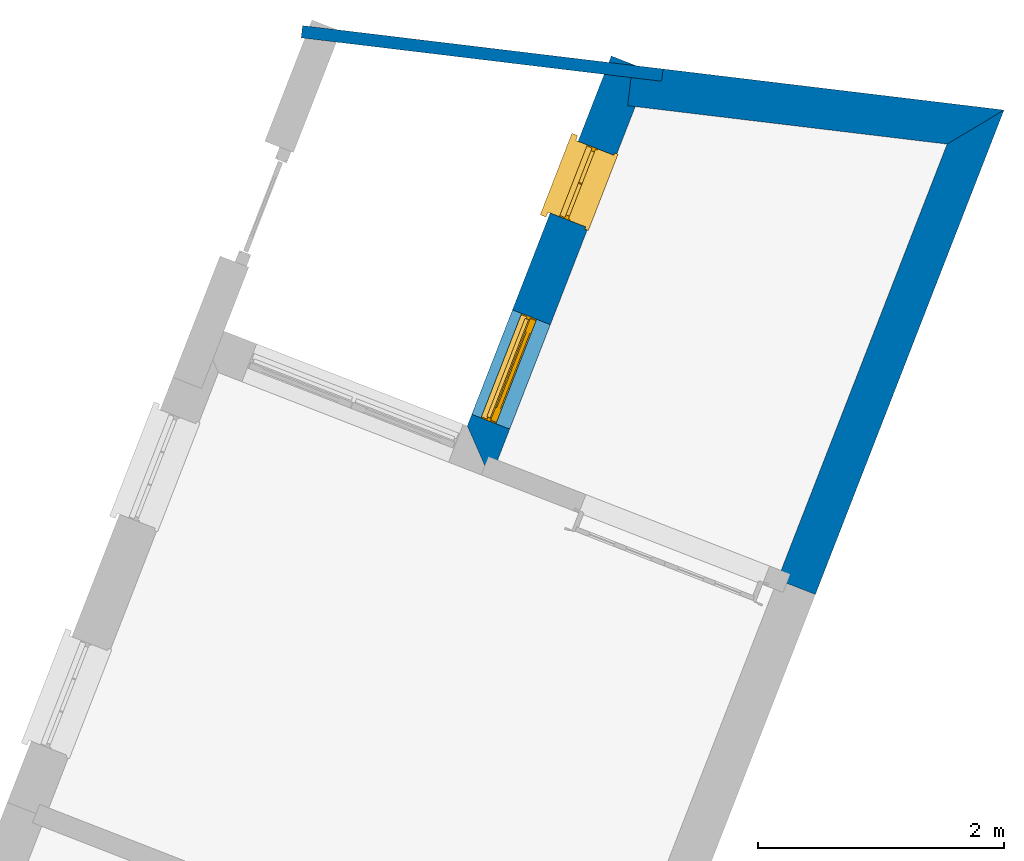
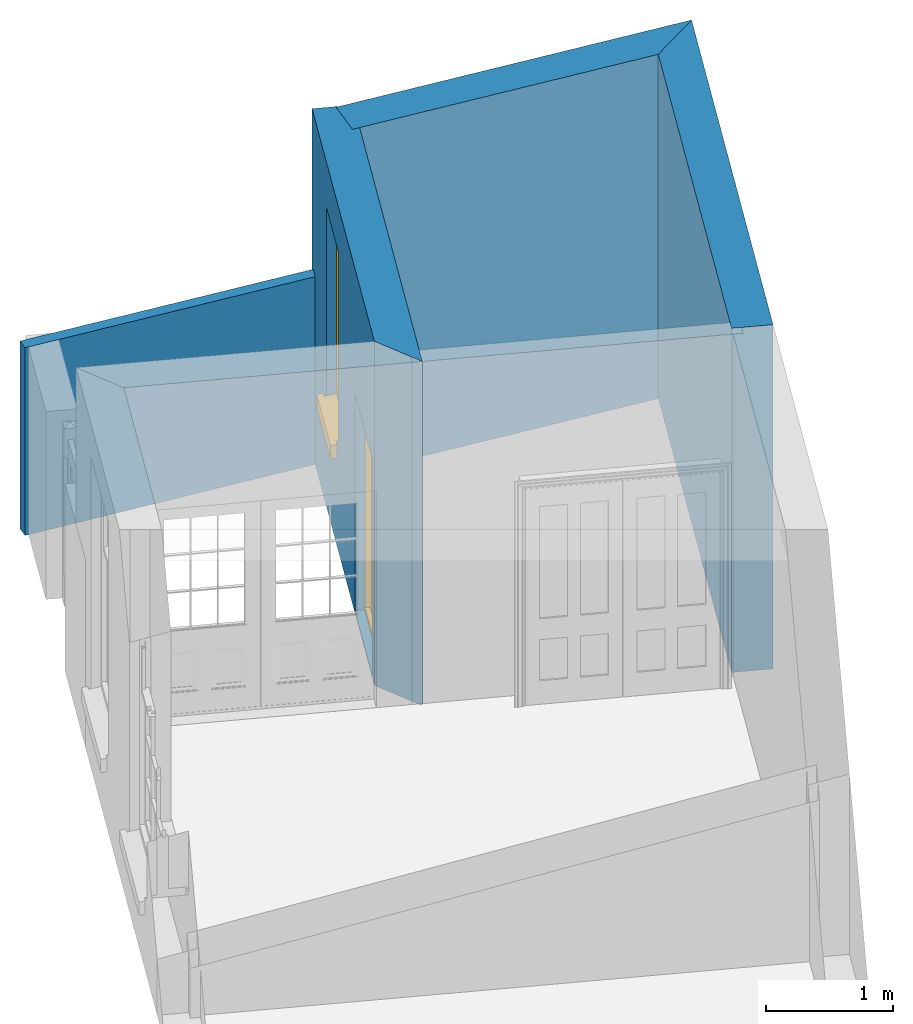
# One storey, part 6 of 6: 4 walls, 1 door, 1 window, 2 openings.
"""IFC4 building model written with IfcOpenShell, lengths in metres."""

from ifc_helpers import new_model, si_unit, frame, origin, origin_with_axes, place, context, subcontext, project, spatial, polyline, outline, extrude, faceted_brep, source, transform, mapped, material, layer, layer_set, layer_usage, type_object, type_shapes, element, fill, save


model = new_model("IFC4")

# Units and contexts
model_context = context("Model", 3, world=origin_with_axes())
body_context = subcontext(model_context, "Body", "Model", "MODEL_VIEW")
ifc_project = project(units=[si_unit("PLANEANGLEUNIT", "RADIAN"), si_unit("MASSUNIT", "GRAM", prefix="KILO"), si_unit("FORCEUNIT", "NEWTON", prefix="KILO"), si_unit("LENGTHUNIT", "METRE"), si_unit("AREAUNIT", "SQUARE_METRE"), si_unit("VOLUMEUNIT", "CUBIC_METRE")], contexts=[model_context, model_context])

# Sites, building, storey
site_1_placement = place(None, origin_with_axes())
site_1 = spatial("IfcSite", under=ifc_project, at=site_1_placement, Name="Tamar")
site_2_placement = place(site_1_placement, origin_with_axes())
site_2 = spatial("IfcSite", under=site_1, at=site_2_placement, Name="Site plot-9", CompositionType="ELEMENT")
building_placement = place(None, origin_with_axes())
building = spatial("IfcBuilding", under=site_2, at=building_placement, Name="Building plot-9", CompositionType="ELEMENT")
storey_placement = place(None, frame((0.0, 0.0, 26.8), z_axis=(0.0, 0.0, 1.0), x_axis=(1.0, 0.0, 0.0)))
storey = spatial("IfcBuildingStorey", under=building, at=storey_placement, Name="plot-9 0", CompositionType="ELEMENT", Elevation=26.8)

# Wall, openings, door, window
ifc_material_1 = material(Name="Masonry")
ifc_layer_1 = layer(ifc_material_1, 0.33, ventilated=False)
ifc_layer_set_1 = layer_set([ifc_layer_1], Name="exterior_0.08_0.25")
ifc_layer_usage_1 = layer_usage(ifc_layer_set_1, "AXIS2", "POSITIVE", -0.25)
wall_type_1 = type_object("IfcWallType", Name="exterior_0.08_0.25", PredefinedType="SOLIDWALL", material=ifc_layer_set_1)
wall_1_placement = place(storey_placement, frame((229.22819960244, 323.037413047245, 0.0), z_axis=(0.0, 0.0, 1.0), x_axis=(-0.362808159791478, -0.931863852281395, 0.0)))
wall_1 = element("IfcWall", 1, at=wall_1_placement, inside=storey, type_object=wall_type_1, material=ifc_layer_usage_1, Name="exterior", context=body_context, shape_type="SweptSolid", body=[
    extrude(outline(polyline([(-0.249999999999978, 0.0800000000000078), (-0.249999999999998, -0.24999999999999), (2.97198165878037, -0.249999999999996), (3.30198165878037, 0.0800000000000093), (-0.249999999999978, 0.0800000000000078)])), origin_with_axes(), (0.0, 0.0, 1.0), 3.3),
])
opening_1_placement = place(wall_1_placement, frame((0.492995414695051, 0.0, 1.05)))
opening_1 = element("IfcOpeningElement", 2, at=opening_1_placement, cuts=wall_1, Name="My Opening", ObjectType="Opening", context=body_context, shape_type="SweptSolid", body=[
    extrude(outline(polyline([(0.0, -0.270000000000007), (0.624999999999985, -0.270000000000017), (0.624999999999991, 1.09999999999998), (7.105427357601e-15, 1.09999999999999), (0.0, -0.270000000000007)])), origin_with_axes(), (0.0, 0.0, 1.0), 1.82),
])
opening_2_placement = place(wall_1_placement, frame((1.9614862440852, 0.0, 0.0199999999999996)))
opening_2 = element("IfcOpeningElement", 3, at=opening_2_placement, cuts=wall_1, Name="My Opening", ObjectType="Opening", context=body_context, shape_type="SweptSolid", body=[
    extrude(outline(polyline([(0.0, -0.269999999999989), (0.90999999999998, -0.270000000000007), (0.909999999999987, 1.09999999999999), (6.43929354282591e-15, 1.1), (0.0, -0.269999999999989)])), origin_with_axes(), (0.0, 0.0, 1.0), 2.08),
])
door_type = type_object("IfcDoorType", Name="door_panelled", OperationType="SINGLE_SWING_LEFT", PredefinedType="NOTDEFINED")
shared_shape_1 = source(origin(), body_context, "Body", "Brep", [
    faceted_brep([(0.545, 0.195, 0.265), (0.745, 0.195, 0.265), (0.745, 0.2, 0.265), (0.545, 0.2, 0.265), (0.745, 0.2, 0.58), (0.545, 0.2, 0.58), (0.545, 0.195, 0.58), (0.515, 0.19, 0.235), (0.775, 0.19, 0.235), (0.745, 0.195, 0.58), (0.515, 0.19, 0.61), (0.515, 0.185, 0.235), (0.775, 0.185, 0.235), (0.775, 0.19, 0.61), (0.515, 0.185, 0.61), (0.785, 0.185, 0.225), (0.505, 0.185, 0.225), (0.775, 0.185, 0.61), (0.505, 0.185, 0.62), (0.785, 0.185, 0.62), (0.505, 0.18, 0.225), (0.785, 0.18, 0.225), (0.505, 0.18, 0.62), (0.785, 0.18, 0.62), (0.883, 0.18, 0.075), (0.898, 0.18, 0.075), (0.405, 0.18, 0.62), (0.405, 0.18, 0.225), (0.027, 0.18, 0.075), (0.785, 0.18, 0.82), (0.125, 0.18, 0.82), (0.405, 0.185, 0.62), (0.405, 0.185, 0.225), (0.898, 0.18, 2.068), (0.027, 0.17, 0.075), (0.883, 0.17, 0.075), (0.125, 0.18, 0.225), (0.012, 0.18, 0.075), (0.785, 0.19, 0.82), (0.125, 0.19, 0.82), (0.125, 0.18, 0.62), (0.125, 0.185, 0.62), (0.395, 0.185, 0.61), (0.395, 0.185, 0.235), (0.125, 0.185, 0.225), (0.785, 0.18, 1.895), (0.027, 0.14, 0.045), (0.883, 0.14, 0.045), (0.558333, 0.19, 0.83), (0.351667, 0.19, 0.83), (0.125, 0.18, 1.895), (0.125, 0.19, 1.895), (0.785, 0.19, 1.895), (0.012, 0.18, 2.068), (0.135, 0.185, 0.61), (0.395, 0.19, 0.61), (0.395, 0.19, 0.235), (0.135, 0.185, 0.235), (0.027, 0.14, 0.027), (0.883, 0.14, 0.027), (0.568333, 0.19, 0.83), (0.558333, 0.22, 0.83), (0.351667, 0.22, 0.83), (0.341667, 0.19, 0.83), (0.135, 0.19, 1.185), (0.135, 0.19, 1.53), (0.775, 0.19, 1.53), (0.775, 0.19, 1.185), (0.135, 0.19, 0.61), (0.365, 0.195, 0.58), (0.365, 0.195, 0.265), (0.135, 0.19, 0.235), (0.568333, 0.19, 1.175), (0.558333, 0.19, 1.175), (0.775, 0.19, 0.83), (0.558333, 0.22, 1.175), (0.785, 0.22, 0.82), (0.125, 0.22, 0.82), (0.351667, 0.22, 1.175), (0.351667, 0.19, 1.175), (0.341667, 0.19, 1.175), (0.135, 0.19, 0.83), (0.135, 0.19, 1.175), (0.135, 0.22, 1.185), (0.135, 0.22, 1.53), (0.135, 0.19, 1.54), (0.351667, 0.19, 1.885), (0.558333, 0.19, 1.885), (0.775, 0.22, 1.53), (0.775, 0.22, 1.185), (0.775, 0.19, 1.175), (0.775, 0.19, 1.54), (0.165, 0.195, 0.58), (0.365, 0.2, 0.58), (0.365, 0.2, 0.265), (0.165, 0.195, 0.265), (0.568333, 0.22, 0.83), (0.568333, 0.22, 1.175), (0.568333, 0.19, 1.185), (0.558333, 0.19, 1.185), (0.775, 0.22, 0.83), (0.785, 0.23, 0.82), (0.125, 0.23, 0.82), (0.341667, 0.22, 0.83), (0.341667, 0.22, 1.175), (0.351667, 0.19, 1.185), (0.341667, 0.19, 1.185), (0.135, 0.22, 0.83), (0.341667, 0.22, 1.185), (0.125, 0.22, 1.895), (0.341667, 0.22, 1.53), (0.341667, 0.19, 1.53), (0.135, 0.19, 1.885), (0.341667, 0.19, 1.54), (0.341667, 0.19, 1.885), (0.558333, 0.22, 1.885), (0.351667, 0.22, 1.885), (0.568333, 0.19, 1.885), (0.785, 0.22, 1.895), (0.568333, 0.22, 1.185), (0.568333, 0.19, 1.53), (0.568333, 0.22, 1.53), (0.568333, 0.19, 1.54), (0.775, 0.19, 1.885), (0.165, 0.2, 0.58), (0.165, 0.2, 0.265), (0.775, 0.22, 1.175), (0.558333, 0.19, 1.53), (0.351667, 0.22, 1.185), (0.558333, 0.22, 1.185), (0.505, 0.23, 0.62), (0.405, 0.23, 0.62), (0.125, 0.23, 1.895), (0.785, 0.23, 1.895), (0.351667, 0.19, 1.53), (0.135, 0.22, 1.175), (0.135, 0.22, 1.54), (0.341667, 0.22, 1.54), (0.135, 0.22, 1.885), (0.351667, 0.19, 1.54), (0.558333, 0.22, 1.54), (0.558333, 0.19, 1.54), (0.351667, 0.22, 1.54), (0.775, 0.22, 1.54), (0.568333, 0.22, 1.54), (0.775, 0.22, 1.885), (0.558333, 0.22, 1.53), (0.405, 0.23, 0.225), (0.505, 0.23, 0.225), (0.125, 0.23, 0.62), (0.785, 0.23, 0.62), (0.012, 0.23, 2.068), (0.898, 0.23, 2.068), (0.351667, 0.22, 1.53), (0.341667, 0.22, 1.885), (0.568333, 0.22, 1.885), (0.405, 0.225, 0.225), (0.405, 0.225, 0.62), (0.505, 0.225, 0.62), (0.505, 0.225, 0.225), (0.898, 0.23, 0.027), (0.012, 0.23, 0.027), (0.125, 0.225, 0.62), (0.785, 0.225, 0.62), (0.395, 0.225, 0.235), (0.395, 0.225, 0.61), (0.125, 0.23, 0.225), (0.125, 0.225, 0.225), (0.515, 0.225, 0.61), (0.515, 0.225, 0.235), (0.785, 0.23, 0.225), (0.785, 0.225, 0.225), (0.135, 0.225, 0.61), (0.775, 0.225, 0.61), (0.135, 0.225, 0.235), (0.395, 0.22, 0.235), (0.395, 0.22, 0.61), (0.515, 0.22, 0.61), (0.515, 0.22, 0.235), (0.775, 0.225, 0.235), (0.135, 0.22, 0.61), (0.775, 0.22, 0.61), (0.135, 0.22, 0.235), (0.365, 0.215, 0.265), (0.365, 0.215, 0.58), (0.545, 0.215, 0.58), (0.545, 0.215, 0.265), (0.775, 0.22, 0.235), (0.165, 0.215, 0.58), (0.745, 0.215, 0.58), (0.165, 0.215, 0.265), (0.365, 0.21, 0.58), (0.365, 0.21, 0.265), (0.545, 0.21, 0.58), (0.545, 0.21, 0.265), (0.745, 0.215, 0.265), (0.165, 0.21, 0.58), (0.745, 0.21, 0.58), (0.165, 0.21, 0.265), (0.745, 0.21, 0.265), (0.885, 0.178, 0.025), (0.025, 0.178, 0.025), (0.025, 0.15, 0.025), (0.885, 0.15, 0.025), (0.9, 0.23, 0.025), (0.01, 0.23, 0.025), (0.9, 0.178, 0.025), (0.91, 0.23, 0.0), (0.0, 0.23, 0.0), (0.01, 0.178, 0.025), (0.9, 0.178, 2.07), (0.9, 0.23, 2.07), (0.885, 0.178, 2.055), (0.91, 0.23, 2.08), (0.01, 0.23, 2.07), (0.0, 0.23, 2.08), (0.01, 0.178, 2.07), (0.025, 0.178, 2.055), (0.0, 0.1, 2.08), (0.91, 0.1, 2.08), (0.01, 0.1, 2.07), (0.9, 0.1, 2.07), (0.01, 0.15, 2.07), (0.9, 0.15, 2.07), (0.0, 0.1, 0.0), (0.91, 0.1, 0.0), (0.01, 0.1, 0.025), (0.9, 0.1, 0.025), (0.01, 0.15, 0.025), (0.025, 0.15, 2.055), (0.9, 0.15, 0.025), (0.885, 0.15, 2.055), (0.898, 0.18, 0.027), (0.012, 0.18, 0.027), (0.883, 0.18, 0.027), (0.027, 0.18, 0.027)], [[[0, 1, 2, 3]], [[2, 4, 5, 3]], [[0, 3, 5, 6]], [[1, 0, 7, 8]], [[9, 4, 2, 1]], [[9, 6, 5, 4]], [[0, 6, 10, 7]], [[8, 7, 11, 12]], [[8, 13, 9, 1]], [[13, 10, 6, 9]], [[7, 10, 14, 11]], [[15, 12, 11, 16]], [[12, 17, 13, 8]], [[17, 14, 10, 13]], [[18, 16, 11, 14]], [[15, 19, 17, 12]], [[15, 16, 20, 21]], [[14, 17, 19, 18]], [[16, 18, 22, 20]], [[21, 23, 19, 15]], [[24, 25, 21, 20]], [[23, 22, 18, 19]], [[20, 22, 26, 27]], [[23, 21, 25]], [[28, 24, 20, 27]], [[22, 23, 29]], [[29, 30, 26, 22]], [[27, 26, 31, 32]], [[23, 25, 33, 29]], [[34, 35, 24, 28]], [[28, 27, 36, 37]], [[38, 39, 30, 29]], [[26, 30, 40]], [[26, 40, 41, 31]], [[42, 43, 32, 31]], [[32, 44, 36, 27]], [[33, 45, 29]], [[46, 47, 35, 34]], [[36, 40, 37]], [[39, 38, 48, 49]], [[50, 30, 39, 51]], [[29, 45, 52, 38]], [[53, 37, 40, 30]], [[44, 41, 40, 36]], [[31, 41, 54, 42]], [[43, 42, 55, 56]], [[57, 44, 32, 43]], [[50, 45, 33, 53]], [[47, 46, 58, 59]], [[60, 48, 38]], [[49, 48, 61, 62]], [[49, 63, 39]], [[50, 53, 30]], [[51, 39, 64, 65]], [[45, 50, 51, 52]], [[66, 67, 38, 52]], [[57, 54, 41, 44]], [[42, 54, 68, 55]], [[56, 55, 69, 70]], [[56, 71, 57, 43]], [[60, 72, 73, 48]], [[60, 38, 74]], [[48, 73, 75, 61]], [[76, 77, 62, 61]], [[62, 78, 79, 49]], [[49, 79, 80, 63]], [[63, 81, 39]], [[82, 64, 39]], [[65, 64, 83, 84]], [[85, 51, 65]], [[52, 51, 86, 87]], [[88, 89, 67, 66]], [[90, 38, 67]], [[91, 66, 52]], [[71, 68, 54, 57]], [[55, 68, 92, 69]], [[69, 93, 94, 70]], [[70, 95, 71, 56]], [[96, 97, 72, 60]], [[73, 72, 98, 99]], [[74, 38, 90]], [[100, 96, 60, 74]], [[75, 73, 79, 78]], [[61, 75, 97, 96]], [[101, 102, 77, 76]], [[77, 103, 62]], [[96, 76, 61]], [[103, 104, 78, 62]], [[80, 79, 105, 106]], [[63, 80, 104, 103]], [[81, 63, 103, 107]], [[81, 82, 39]], [[106, 64, 82, 80]], [[106, 108, 83, 64]], [[84, 83, 77, 109]], [[110, 111, 65, 84]], [[112, 51, 85]], [[113, 85, 65, 111]], [[114, 86, 51]], [[115, 87, 86, 116]], [[117, 52, 87]], [[118, 76, 89, 88]], [[119, 98, 67, 89]], [[120, 121, 88, 66]], [[67, 98, 72, 90]], [[91, 122, 120, 66]], [[91, 52, 123]], [[95, 92, 68, 71]], [[69, 92, 124, 93]], [[94, 93, 124, 125]], [[94, 125, 95, 70]], [[72, 97, 126, 90]], [[127, 99, 98, 120]], [[99, 105, 79, 73]], [[74, 90, 126, 100]], [[96, 100, 76]], [[128, 129, 75, 78]], [[97, 75, 129, 119]], [[130, 131, 102, 101]], [[109, 77, 102, 132]], [[133, 101, 76, 118]], [[77, 107, 103]], [[78, 104, 108, 128]], [[111, 106, 105, 134]], [[104, 80, 82, 135]], [[107, 135, 82, 81]], [[110, 108, 106, 111]], [[104, 135, 83, 108]], [[83, 135, 77]], [[136, 84, 109]], [[110, 84, 136, 137]], [[114, 51, 112]], [[85, 136, 138, 112]], [[113, 137, 136, 85]], [[111, 134, 139, 113]], [[86, 114, 113, 139]], [[140, 141, 87, 115]], [[139, 142, 116, 86]], [[109, 118, 115, 116]], [[117, 123, 52]], [[117, 87, 141, 122]], [[126, 89, 76]], [[143, 118, 88]], [[120, 98, 119, 121]], [[119, 89, 126, 97]], [[144, 143, 88, 121]], [[144, 122, 91, 143]], [[127, 120, 122, 141]], [[143, 91, 123, 145]], [[124, 92, 95, 125]], [[146, 129, 99, 127]], [[99, 129, 128, 105]], [[100, 126, 76]], [[121, 119, 129, 146]], [[147, 131, 130, 148]], [[131, 149, 102]], [[130, 101, 150]], [[102, 151, 132]], [[118, 109, 132, 133]], [[101, 133, 152]], [[107, 77, 135]], [[153, 128, 108, 110]], [[134, 105, 128, 153]], [[109, 138, 136]], [[153, 110, 137, 142]], [[154, 114, 112, 138]], [[137, 113, 114, 154]], [[141, 139, 134, 127]], [[141, 140, 142, 139]], [[144, 140, 115, 155]], [[142, 137, 154, 116]], [[155, 115, 118]], [[116, 154, 109]], [[117, 155, 145, 123]], [[122, 144, 155, 117]], [[143, 145, 118]], [[121, 146, 140, 144]], [[146, 127, 134, 153]], [[156, 157, 131, 147]], [[148, 130, 158, 159]], [[148, 160, 161, 147]], [[157, 162, 149, 131]], [[161, 151, 102, 149]], [[101, 152, 160, 150]], [[163, 158, 130, 150]], [[151, 152, 133, 132]], [[154, 138, 109]], [[142, 140, 146, 153]], [[145, 155, 118]], [[157, 156, 164, 165]], [[147, 166, 167, 156]], [[168, 169, 159, 158]], [[170, 148, 159, 171]], [[148, 170, 160]], [[166, 147, 161]], [[172, 162, 157, 165]], [[166, 149, 162, 167]], [[166, 161, 149]], [[150, 160, 170]], [[163, 173, 168, 158]], [[171, 163, 150, 170]], [[174, 164, 156, 167]], [[175, 176, 165, 164]], [[169, 168, 177, 178]], [[171, 159, 169, 179]], [[167, 162, 172, 174]], [[176, 180, 172, 165]], [[179, 173, 163, 171]], [[181, 177, 168, 173]], [[164, 174, 182, 175]], [[183, 184, 176, 175]], [[178, 177, 185, 186]], [[179, 169, 178, 187]], [[174, 172, 180, 182]], [[184, 188, 180, 176]], [[187, 181, 173, 179]], [[189, 185, 177, 181]], [[175, 182, 190, 183]], [[191, 184, 183, 192]], [[185, 193, 194, 186]], [[187, 178, 186, 195]], [[182, 180, 188, 190]], [[191, 196, 188, 184]], [[195, 189, 181, 187]], [[197, 193, 185, 189]], [[183, 190, 198, 192]], [[198, 196, 191, 192]], [[194, 193, 197, 199]], [[195, 186, 194, 199]], [[188, 196, 198, 190]], [[197, 189, 195, 199]], [[200, 201, 202, 203]], [[201, 200, 204, 205]], [[206, 204, 200]], [[204, 207, 208, 205]], [[209, 201, 205]], [[210, 211, 204, 206]], [[206, 200, 212, 210]], [[211, 213, 207, 204]], [[214, 205, 208, 215]], [[216, 217, 201, 209]], [[205, 214, 216, 209]], [[216, 214, 211, 210]], [[210, 212, 217, 216]], [[214, 215, 213, 211]], [[218, 219, 213, 215]], [[219, 218, 220, 221]], [[221, 220, 222, 223]], [[215, 208, 224, 218]], [[225, 224, 208, 207]], [[224, 226, 220, 218]], [[224, 225, 227, 226]], [[219, 225, 207, 213]], [[228, 222, 220, 226]], [[219, 221, 227, 225]], [[226, 227, 203, 202]], [[202, 229, 222, 228]], [[228, 226, 202]], [[227, 221, 223, 230]], [[230, 203, 227]], [[217, 229, 202, 201]], [[231, 223, 222, 229]], [[230, 223, 231, 203]], [[231, 229, 217, 212]], [[212, 200, 203, 231]], [[33, 152, 151, 53]], [[25, 160, 152, 33]], [[161, 37, 53, 151]], [[232, 160, 25]], [[161, 233, 37]], [[160, 232, 234]], [[24, 234, 232, 25]], [[233, 161, 235]], [[37, 233, 235, 28]], [[161, 160, 234, 235]], [[35, 47, 234, 24]], [[28, 235, 46, 34]], [[58, 235, 234, 59]], [[59, 234, 47]], [[58, 46, 235]]]),
])
type_shapes(door_type, [shared_shape_1])
door_placement = place(storey_placement, frame((228.264953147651, 321.307533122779, 0.0199999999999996), z_axis=(0.0, 0.0, 1.0), x_axis=(-0.330155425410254, -0.847996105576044, 0.0)))
door = element("IfcDoor", 4, at=door_placement, inside=storey, type_object=door_type, Name="kitchen sahn door", OverallHeight=2.08, OverallWidth=0.91, context=body_context, shape_type="MappedRepresentation", body=[
    mapped(shared_shape_1, transform((0.0, 0.0, 0.0), scale=1.0)),
])
fill(opening_2, door)
window_type = type_object("IfcWindowType", Name="sash_narrow", PartitioningType="DOUBLE_PANEL_HORIZONTAL", PredefinedType="NOTDEFINED")
shared_shape_2 = source(origin(), body_context, "Body", "Brep", [
    faceted_brep([(0.033125, 0.145, 0.975209), (0.01, 0.145, 0.975209), (0.033125, 0.145, 1.376042), (0.591875, 0.145, 0.975209), (0.591875, 0.145, 1.376042), (0.615, 0.145, 0.975209), (0.591875, 0.145, 1.386042), (0.591875, 0.145, 1.786875), (0.615, 0.145, 1.81), (0.033125, 0.145, 1.786875), (0.033125, 0.145, 1.386042), (0.01, 0.145, 1.81), (0.591875, 0.115, 1.376042), (0.591875, 0.115, 0.975209), (0.615, 0.115, 0.937083), (0.033125, 0.115, 1.786875), (0.01, 0.115, 1.81), (0.033125, 0.115, 1.386042), (0.01, 0.115, 0.937083), (0.033125, 0.115, 0.975209), (0.033125, 0.115, 1.376042), (0.591875, 0.115, 1.786875), (0.591875, 0.115, 1.386042), (0.615, 0.115, 1.81), (0.033125, 0.145, 0.937083), (0.01, 0.145, 0.937083), (0.033125, 0.145, 0.53625), (0.591875, 0.145, 0.937083), (0.591875, 0.145, 0.53625), (0.615, 0.145, 0.937083), (0.591875, 0.145, 0.52625), (0.591875, 0.145, 0.125417), (0.615, 0.145, 0.077167), (0.033125, 0.145, 0.125417), (0.033125, 0.145, 0.52625), (0.01, 0.145, 0.077167), (-0.0425, 0.0, 0.01), (-0.0425, -0.05, 0.001667), (0.0, 0.0, 0.01), (0.6675, 0.0, 0.01), (0.625, 0.0, 0.01), (0.6675, -0.05, 0.001667), (-0.02, 0.33, 0.077167), (0.0, 0.33, 0.077167), (-0.02, 0.36, 0.077167), (0.0, 0.19, 0.077167), (0.01, 0.19, 0.077167), (0.625, 0.19, 0.077167), (0.625, 0.33, 0.077167), (0.615, 0.19, 0.077167), (0.645, 0.33, 0.077167), (0.645, 0.36, 0.077167), (0.01, 0.175, 0.975209), (0.615, 0.175, 0.975209), (0.591875, 0.175, 0.125417), (0.591875, 0.175, 0.52625), (0.615, 0.175, 0.077167), (0.591875, 0.175, 0.53625), (0.591875, 0.175, 0.937083), (0.033125, 0.175, 0.125417), (0.01, 0.175, 0.077167), (0.033125, 0.175, 0.52625), (0.033125, 0.175, 0.937083), (0.033125, 0.175, 0.53625), (-0.02, 0.33, 0.052167), (-0.02, 0.36, 0.052167), (0.645, 0.36, 0.052167), (0.645, 0.33, 0.052167), (0.625, 0.33, 0.052167), (0.0, 0.33, 0.052167), (0.625, 0.1, 0.026667), (0.0, 0.1, 0.026667), (-0.0425, -0.05, -0.123333), (0.6675, -0.05, -0.123333), (-0.0425, 0.0, -0.123333), (0.6675, 0.0, -0.123333), (0.01, 0.19, 1.81), (0.615, 0.19, 1.81), (0.0, 0.19, 1.82), (0.625, 0.19, 1.82), (0.01, 0.1, 0.077167), (0.615, 0.1, 0.077167), (0.3175, 0.175, 0.53625), (0.3175, 0.145, 0.53625), (0.3175, 0.175, 0.52625), (0.3175, 0.175, 0.125417), (0.3075, 0.175, 0.125417), (0.3075, 0.175, 0.52625), (0.3075, 0.175, 0.53625), (0.3175, 0.175, 0.937083), (0.3075, 0.175, 0.937083), (0.3075, 0.145, 0.52625), (0.3075, 0.145, 0.125417), (0.3175, 0.145, 0.125417), (0.3175, 0.145, 0.52625), (0.3075, 0.145, 0.53625), (0.3075, 0.145, 0.937083), (0.3175, 0.145, 0.937083), (0.3075, 0.115, 1.386042), (0.3075, 0.115, 1.376042), (0.3175, 0.115, 1.376042), (0.3075, 0.115, 0.975209), (0.3175, 0.115, 0.975209), (0.3175, 0.115, 1.786875), (0.3075, 0.115, 1.786875), (0.3175, 0.115, 1.386042), (0.3175, 0.145, 1.386042), (0.3175, 0.145, 1.376042), (0.3075, 0.145, 1.386042), (0.3075, 0.145, 1.786875), (0.3175, 0.145, 1.786875), (0.3075, 0.145, 1.376042), (0.3175, 0.145, 0.975209), (0.3075, 0.145, 0.975209), (0.625, 0.1, 1.82), (0.615, 0.1, 1.81), (0.01, 0.1, 1.81), (0.0, 0.1, 1.82), (0.625, 0.0, 0.0), (0.0, 0.0, 0.0), (0.625, 0.33, 0.0), (0.0, 0.33, 0.0)], [[[0, 1, 2]], [[3, 4, 5]], [[6, 7, 8]], [[9, 10, 11]], [[12, 13, 14]], [[15, 16, 17]], [[18, 19, 20]], [[21, 22, 23]], [[24, 25, 26]], [[27, 28, 29]], [[30, 31, 32]], [[33, 34, 35]], [[14, 27, 29]], [[25, 24, 18]], [[36, 37, 38]], [[39, 40, 41]], [[42, 43, 44]], [[45, 46, 43]], [[47, 48, 49]], [[50, 51, 48]], [[1, 0, 52]], [[5, 53, 3]], [[54, 55, 56]], [[57, 58, 53]], [[59, 60, 61]], [[62, 63, 52]], [[48, 43, 46, 49]], [[51, 44, 43, 48]], [[64, 42, 44, 65]], [[65, 44, 51, 66]], [[66, 51, 50, 67]], [[65, 66, 68, 69]], [[60, 56, 49, 46]], [[70, 71, 38, 40]], [[37, 41, 40, 38]], [[37, 72, 73, 41]], [[74, 75, 73, 72]], [[8, 11, 76, 77]], [[76, 78, 79, 77]], [[32, 35, 80, 81]], [[81, 80, 71, 70]], [[28, 57, 82, 83]], [[84, 85, 86, 87]], [[88, 87, 61, 63]], [[89, 82, 88, 90]], [[84, 82, 57, 55]], [[91, 87, 86, 92]], [[34, 61, 87, 91]], [[93, 85, 84, 94]], [[95, 88, 63, 26]], [[96, 90, 88, 95]], [[83, 82, 89, 97]], [[94, 84, 55, 30]], [[94, 30, 28, 83]], [[94, 91, 92, 93]], [[95, 26, 34, 91]], [[97, 96, 95, 83]], [[98, 17, 20, 99]], [[100, 99, 101, 102]], [[103, 104, 98, 105]], [[100, 12, 22, 105]], [[106, 6, 4, 107]], [[106, 108, 109, 110]], [[111, 2, 10, 108]], [[112, 113, 111, 107]], [[99, 111, 113, 101]], [[20, 2, 111, 99]], [[102, 112, 107, 100]], [[98, 108, 10, 17]], [[104, 109, 108, 98]], [[105, 106, 110, 103]], [[22, 6, 106, 105]], [[100, 107, 4, 12]], [[82, 84, 87, 88]], [[83, 95, 91, 94]], [[99, 100, 105, 98]], [[107, 111, 108, 106]], [[92, 86, 59, 33]], [[15, 9, 109, 104]], [[103, 110, 7, 21]], [[31, 54, 85, 93]], [[36, 74, 72, 37]], [[39, 41, 73, 75]], [[18, 14, 102, 101]], [[23, 16, 104, 103]], [[85, 56, 60, 86]], [[52, 53, 89, 90]], [[53, 52, 113, 112]], [[11, 8, 110, 109]], [[14, 18, 96, 97]], [[2, 1, 11, 10]], [[8, 5, 4, 6]], [[57, 53, 56, 55]], [[60, 52, 63, 61]], [[26, 25, 35, 34]], [[32, 29, 28, 30]], [[14, 23, 22, 12]], [[18, 20, 17, 16]], [[19, 0, 2, 20]], [[17, 10, 9, 15]], [[12, 4, 3, 13]], [[21, 7, 6, 22]], [[27, 58, 57, 28]], [[30, 55, 54, 31]], [[33, 59, 61, 34]], [[26, 63, 62, 24]], [[5, 8, 77, 53]], [[76, 11, 1, 52]], [[46, 45, 78, 76]], [[49, 77, 79, 47]], [[70, 114, 115, 81]], [[71, 80, 116, 117]], [[19, 101, 113, 0]], [[102, 13, 3, 112]], [[90, 96, 24, 62]], [[29, 32, 81, 14]], [[80, 35, 25, 18]], [[60, 46, 76, 52]], [[77, 49, 56, 53]], [[23, 14, 81, 115]], [[16, 116, 80, 18]], [[92, 33, 35]], [[32, 31, 93]], [[32, 93, 92, 35]], [[14, 13, 102]], [[101, 19, 18]], [[103, 21, 23]], [[16, 15, 104]], [[109, 9, 11]], [[8, 7, 110]], [[23, 115, 116, 16]], [[114, 117, 116, 115]], [[90, 62, 52]], [[58, 89, 53]], [[27, 97, 89, 58]], [[85, 54, 56]], [[60, 59, 86]], [[97, 27, 14]], [[18, 24, 96]], [[52, 0, 113]], [[112, 3, 53]], [[79, 78, 117, 114]], [[78, 45, 71, 117]], [[114, 70, 47, 79]], [[118, 75, 74, 119]], [[68, 66, 67]], [[48, 68, 67, 50]], [[69, 64, 65]], [[42, 64, 69, 43]], [[69, 68, 120, 121]], [[70, 68, 48, 47]], [[118, 120, 68, 70]], [[43, 69, 71, 45]], [[69, 121, 119, 71]], [[120, 118, 119, 121]], [[38, 119, 74, 36]], [[71, 119, 38]], [[39, 75, 118, 40]], [[40, 118, 70]]]),
])
type_shapes(window_type, [shared_shape_2])
window_placement = place(storey_placement, frame((228.797733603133, 322.675966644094, 1.05), z_axis=(0.0, 0.0, 1.0), x_axis=(-0.226755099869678, -0.582414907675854, 0.0)))
window = element("IfcWindow", 5, at=window_placement, inside=storey, type_object=window_type, Name="kitchen sahn window", OverallHeight=1.82, OverallWidth=0.625, context=body_context, shape_type="MappedRepresentation", body=[
    mapped(shared_shape_2, transform((0.0, 0.0, 0.0), scale=1.0)),
])
fill(opening_1, window)

# Walls
ifc_material_2 = material(Name="Masonry")
ifc_layer_2 = layer(ifc_material_2, 0.33, ventilated=False)
ifc_layer_set_2 = layer_set([ifc_layer_2], Name="party_0.08_0.25")
ifc_layer_usage_2 = layer_usage(ifc_layer_set_2, "AXIS2", "POSITIVE", -0.25)
wall_type_2 = type_object("IfcWallType", Name="party_0.08_0.25", PredefinedType="SOLIDWALL", material=ifc_layer_set_2)
wall_2_placement = place(storey_placement, frame((230.50959171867, 319.080953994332, 0.0), z_axis=(0.0, 0.0, 1.0), x_axis=(0.362808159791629, 0.931863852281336, 0.0)))
element("IfcWall", 6, at=wall_2_placement, inside=storey, type_object=wall_type_2, material=ifc_layer_usage_2, Name="party", context=body_context, shape_type="SweptSolid", body=[
    extrude(outline(polyline([(3.16681376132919e-15, 0.0800000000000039), (-7.9754216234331e-14, -0.250000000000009), (4.21997660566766, -0.250000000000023), (3.79446594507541, 0.0800000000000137), (3.16681376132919e-15, 0.0800000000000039)])), origin_with_axes(), (0.0, 0.0, 1.0), 3.3),
])
wall_3_placement = place(storey_placement, frame((231.923680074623, 322.713005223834, 0.0), z_axis=(0.0, 0.0, 1.0), x_axis=(-0.992835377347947, 0.119490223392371, 0.0)))
element("IfcWall", 7, at=wall_3_placement, inside=storey, type_object=wall_type_2, material=ifc_layer_usage_2, Name="party", context=body_context, shape_type="SweptSolid", body=[
    extrude(outline(polyline([(0.103154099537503, 0.0800000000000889), (-0.322356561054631, -0.250000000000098), (2.71493193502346, -0.250000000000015), (2.71493193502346, 0.0800000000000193), (0.103154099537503, 0.0800000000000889)])), origin_with_axes(), (0.0, 0.0, 1.0), 3.3),
])
ifc_material_3 = material(Name="Masonry")
ifc_layer_3 = layer(ifc_material_3, 0.1, ventilated=False)
ifc_layer_set_3 = layer_set([ifc_layer_3], Name="fence_-0.15_0.25")
ifc_layer_usage_3 = layer_usage(ifc_layer_set_3, "AXIS2", "POSITIVE", -0.25)
wall_type_3 = type_object("IfcWallType", Name="fence_-0.15_0.25", PredefinedType="SOLIDWALL", material=ifc_layer_set_3)
wall_4_placement = place(storey_placement, frame((229.22819960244, 323.037413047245, 0.0), z_axis=(0.0, 0.0, 1.0), x_axis=(-0.992835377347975, 0.11949022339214, 0.0)))
element("IfcWall", 8, at=wall_4_placement, inside=storey, type_object=wall_type_3, material=ifc_layer_usage_3, Name="fence", context=body_context, shape_type="SweptSolid", body=[
    extrude(outline(polyline([(-0.250000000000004, -0.150000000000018), (-0.250000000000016, -0.249999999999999), (2.69748051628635, -0.250000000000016), (2.69748051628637, -0.150000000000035), (-0.250000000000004, -0.150000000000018)])), origin_with_axes(), (0.0, 0.0, 1.0), 1.8),
])

save(model, "model.ifc")
